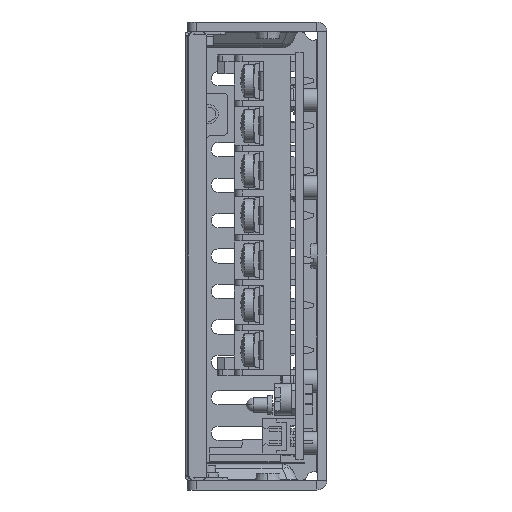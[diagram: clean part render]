
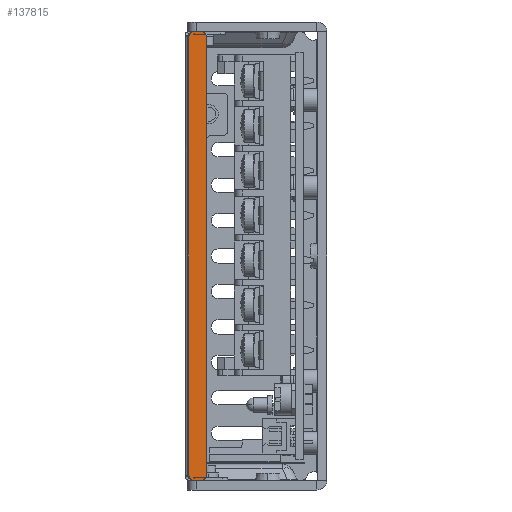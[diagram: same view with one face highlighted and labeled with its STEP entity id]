
A CAD part, left-side view. The second image highlights one B-rep face of the part: STEP entity #137815.
In plain terms, the highlighted planar face has unit normal (-1, 0, 0).
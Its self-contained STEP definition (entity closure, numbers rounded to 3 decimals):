
#778 = DIRECTION ( 'NONE',  ( 0., 0., 1. ) ) ;
#1862 = VERTEX_POINT ( 'NONE', #86442 ) ;
#2331 = EDGE_CURVE ( 'NONE', #89526, #1862, #34422, .T. ) ;
#3102 = CIRCLE ( 'NONE', #36773, 0.75 ) ;
#4920 = VERTEX_POINT ( 'NONE', #47262 ) ;
#5264 = EDGE_CURVE ( 'NONE', #130923, #4920, #64860, .T. ) ;
#9321 = DIRECTION ( 'NONE',  ( 0., 0., -1. ) ) ;
#9882 = DIRECTION ( 'NONE',  ( -1., 0., 0. ) ) ;
#10371 = CIRCLE ( 'NONE', #19271, 0.5 ) ;
#11404 = LINE ( 'NONE', #129967, #59568 ) ;
#13275 = CARTESIAN_POINT ( 'NONE',  ( -89.25, -0.438, -47.037 ) ) ;
#17506 = EDGE_LOOP ( 'NONE', ( #90852, #91087, #122243, #47090, #104666, #126417, #103284, #115562, #68414, #27222 ) ) ;
#18208 = CARTESIAN_POINT ( 'NONE',  ( -89.25, -0.919, 46.9 ) ) ;
#19271 = AXIS2_PLACEMENT_3D ( 'NONE', #18208, #72225, #125551 ) ;
#19768 = PLANE ( 'NONE',  #82948 ) ;
#23512 = DIRECTION ( 'NONE',  ( 0., 0., 1. ) ) ;
#25801 = VERTEX_POINT ( 'NONE', #26970 ) ;
#26011 = CARTESIAN_POINT ( 'NONE',  ( -89.25, -0.919, -46.9 ) ) ;
#26970 = CARTESIAN_POINT ( 'NONE',  ( -89.25, -0.1, -46.597 ) ) ;
#27222 = ORIENTED_EDGE ( 'NONE', *, *, #111746, .T. ) ;
#30553 = EDGE_CURVE ( 'NONE', #89526, #47828, #10371, .T. ) ;
#34422 = LINE ( 'NONE', #77208, #62003 ) ;
#36428 = CARTESIAN_POINT ( 'NONE',  ( -89.25, -3.9, -47.4 ) ) ;
#36773 = AXIS2_PLACEMENT_3D ( 'NONE', #87360, #78226, #23512 ) ;
#37064 = LINE ( 'NONE', #59489, #46855 ) ;
#38656 = VECTOR ( 'NONE', #120631, 1000. ) ;
#44603 = CARTESIAN_POINT ( 'NONE',  ( -89.25, 0.283, 47.242 ) ) ;
#46012 = EDGE_CURVE ( 'NONE', #119833, #47828, #65161, .T. ) ;
#46089 = CARTESIAN_POINT ( 'NONE',  ( -89.25, -2.9, -47.4 ) ) ;
#46855 = VECTOR ( 'NONE', #79838, 1000. ) ;
#47090 = ORIENTED_EDGE ( 'NONE', *, *, #30553, .T. ) ;
#47262 = CARTESIAN_POINT ( 'NONE',  ( -89.25, -0.919, -47.4 ) ) ;
#47828 = VERTEX_POINT ( 'NONE', #95200 ) ;
#54168 = CARTESIAN_POINT ( 'NONE',  ( -89.25, -0.1, 46.597 ) ) ;
#55325 = EDGE_CURVE ( 'NONE', #119833, #25801, #11404, .T. ) ;
#55964 = AXIS2_PLACEMENT_3D ( 'NONE', #26011, #99019, #58961 ) ;
#58428 = AXIS2_PLACEMENT_3D ( 'NONE', #44603, #108428, #87375 ) ;
#58961 = DIRECTION ( 'NONE',  ( 0., -1., 0. ) ) ;
#59489 = CARTESIAN_POINT ( 'NONE',  ( -89.25, 0., -47.4 ) ) ;
#59568 = VECTOR ( 'NONE', #9321, 1000. ) ;
#60121 = CIRCLE ( 'NONE', #129534, 1. ) ;
#60378 = AXIS2_PLACEMENT_3D ( 'NONE', #135641, #83019, #94233 ) ;
#62003 = VECTOR ( 'NONE', #120007, 1000. ) ;
#64714 = EDGE_CURVE ( 'NONE', #100275, #125290, #132556, .T. ) ;
#64860 = CIRCLE ( 'NONE', #55964, 0.5 ) ;
#65161 = CIRCLE ( 'NONE', #58428, 0.75 ) ;
#65363 = FACE_OUTER_BOUND ( 'NONE', #17506, .T. ) ;
#68414 = ORIENTED_EDGE ( 'NONE', *, *, #121810, .F. ) ;
#72225 = DIRECTION ( 'NONE',  ( -1., 0., 0. ) ) ;
#77208 = CARTESIAN_POINT ( 'NONE',  ( -89.25, -3.9, 47.4 ) ) ;
#77464 = CARTESIAN_POINT ( 'NONE',  ( -89.25, -0.919, 47.4 ) ) ;
#78226 = DIRECTION ( 'NONE',  ( -1., 0., 0. ) ) ;
#79838 = DIRECTION ( 'NONE',  ( 0., 1., 0. ) ) ;
#82948 = AXIS2_PLACEMENT_3D ( 'NONE', #86378, #117976, #778 ) ;
#83019 = DIRECTION ( 'NONE',  ( -1., 0., 0. ) ) ;
#86378 = CARTESIAN_POINT ( 'NONE',  ( -89.25, 0., 0. ) ) ;
#86442 = CARTESIAN_POINT ( 'NONE',  ( -89.25, -2.9, 47.4 ) ) ;
#87360 = CARTESIAN_POINT ( 'NONE',  ( -89.25, 0.283, -47.242 ) ) ;
#87375 = DIRECTION ( 'NONE',  ( 0., 0., 1. ) ) ;
#89526 = VERTEX_POINT ( 'NONE', #77464 ) ;
#90852 = ORIENTED_EDGE ( 'NONE', *, *, #64714, .F. ) ;
#91087 = ORIENTED_EDGE ( 'NONE', *, *, #133678, .T. ) ;
#91750 = CARTESIAN_POINT ( 'NONE',  ( -89.25, -3.9, -46.4 ) ) ;
#94233 = DIRECTION ( 'NONE',  ( 0., -1., 0. ) ) ;
#95200 = CARTESIAN_POINT ( 'NONE',  ( -89.25, -0.438, 47.037 ) ) ;
#99019 = DIRECTION ( 'NONE',  ( -1., 0., 0. ) ) ;
#100275 = VERTEX_POINT ( 'NONE', #112247 ) ;
#103284 = ORIENTED_EDGE ( 'NONE', *, *, #128992, .F. ) ;
#104666 = ORIENTED_EDGE ( 'NONE', *, *, #46012, .F. ) ;
#108428 = DIRECTION ( 'NONE',  ( -1., 0., 0. ) ) ;
#111746 = EDGE_CURVE ( 'NONE', #127408, #125290, #123169, .T. ) ;
#112247 = CARTESIAN_POINT ( 'NONE',  ( -89.25, -3.9, 46.4 ) ) ;
#115562 = ORIENTED_EDGE ( 'NONE', *, *, #5264, .T. ) ;
#117976 = DIRECTION ( 'NONE',  ( -1., 0., 0. ) ) ;
#119833 = VERTEX_POINT ( 'NONE', #54168 ) ;
#120007 = DIRECTION ( 'NONE',  ( 0., -1., 0. ) ) ;
#120631 = DIRECTION ( 'NONE',  ( 0., 0., -1. ) ) ;
#121810 = EDGE_CURVE ( 'NONE', #127408, #4920, #37064, .T. ) ;
#122243 = ORIENTED_EDGE ( 'NONE', *, *, #2331, .F. ) ;
#123169 = CIRCLE ( 'NONE', #60378, 1. ) ;
#125290 = VERTEX_POINT ( 'NONE', #91750 ) ;
#125551 = DIRECTION ( 'NONE',  ( 0., -1., 0. ) ) ;
#126417 = ORIENTED_EDGE ( 'NONE', *, *, #55325, .T. ) ;
#127408 = VERTEX_POINT ( 'NONE', #46089 ) ;
#127767 = DIRECTION ( 'NONE',  ( 0., -1., 0. ) ) ;
#128992 = EDGE_CURVE ( 'NONE', #130923, #25801, #3102, .T. ) ;
#129534 = AXIS2_PLACEMENT_3D ( 'NONE', #137600, #9882, #127767 ) ;
#129967 = CARTESIAN_POINT ( 'NONE',  ( -89.25, -0.1, 0. ) ) ;
#130923 = VERTEX_POINT ( 'NONE', #13275 ) ;
#132556 = LINE ( 'NONE', #36428, #38656 ) ;
#133678 = EDGE_CURVE ( 'NONE', #100275, #1862, #60121, .T. ) ;
#135641 = CARTESIAN_POINT ( 'NONE',  ( -89.25, -2.9, -46.4 ) ) ;
#137600 = CARTESIAN_POINT ( 'NONE',  ( -89.25, -2.9, 46.4 ) ) ;
#137815 = ADVANCED_FACE ( 'NONE', ( #65363 ), #19768, .T. ) ;
